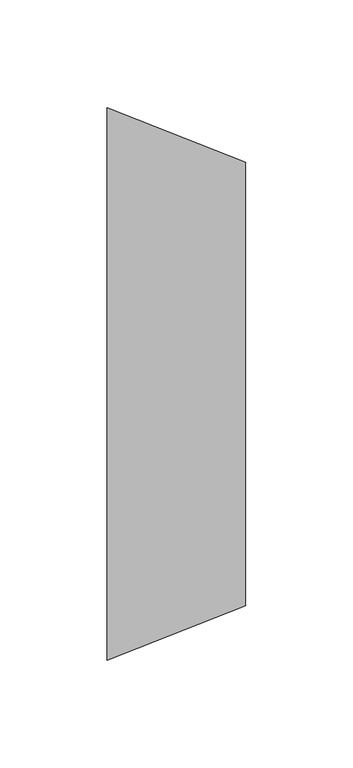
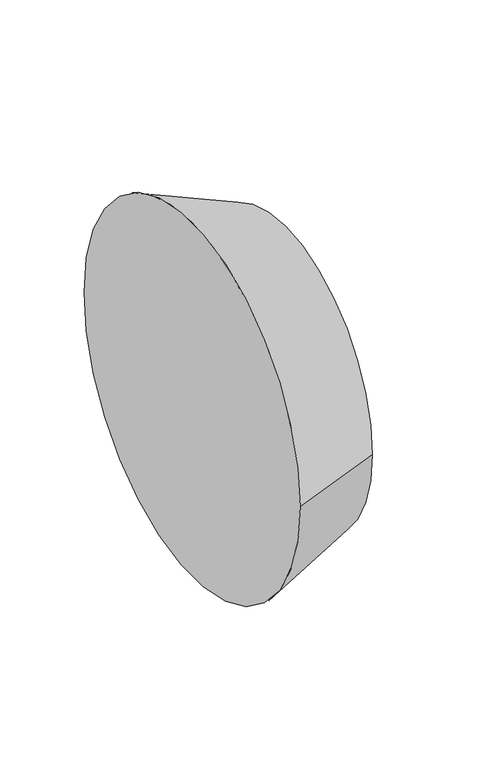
"""IFC4 building model written with IfcOpenShell, lengths in millimetres: pipe fitting geometry, M_Transición - Genérica : Estándar."""

from ifc_helpers import new_model, si_unit, frame, origin, place, context, project, spatial, polyline, circle_curve, source, transform, mapped, element, save
from ifc_brep_helpers import plane_surface, revolved_surface, advanced_brep


def pipe_fitting_4bdfcd00(model_context):
    return source(origin(), model_context, "Body", "AdvancedBrep", [
        advanced_brep(
        [(64.29375, 103.1875, 0.0), (64.29375, -103.1875, 0.0), (0.0, 128.5875, 0.0), (0.0, -128.5875, 0.0)],
        [
            (0, 1, circle_curve(frame((64.29375, 0.0, 0.0), z_axis=(1.0, 0.0, 0.0), x_axis=(0.0, -1.0, 0.0)), 103.1875)),
            (1, 0, circle_curve(frame((64.29375, 0.0, 0.0), z_axis=(1.0, 0.0, 0.0), x_axis=(0.0, 1.0, 0.0)), 103.1875)),
            (2, 3, circle_curve(frame((0.0, 0.0, 0.0), z_axis=(-1.0, 0.0, 0.0), x_axis=(0.0, 1.0, 0.0)), 128.5875)),
            (3, 2, circle_curve(frame((0.0, 0.0, 0.0), z_axis=(-1.0, 0.0, 0.0), x_axis=(0.0, -1.0, 0.0)), 128.5875)),
            (2, 0),
            (1, 3),
        ],
        [
            plane_surface(frame((64.29375, 0.0, 0.0), z_axis=(1.0, 0.0, 0.0), x_axis=(0.0, 0.0, -1.0))),
            plane_surface(frame((0.0, 0.0, 0.0), z_axis=(-1.0, 0.0, 0.0), x_axis=(0.0, 0.0, -1.0))),
            revolved_surface(polyline([(64.29374999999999, 103.18750000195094, 0.0), (0.0, 128.5875, 0.0)]), (325.4871094, 0.0, 0.0), (-1.0, 0.0, 0.0)),
            revolved_surface(polyline([(64.29374999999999, -103.18750000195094, 0.0), (0.0, -128.5875, 0.0)]), (325.4871094, 0.0, 0.0), (-1.0, 0.0, 0.0)),
        ],
        [
            (0, [[1, 2]]),
            (1, [[3, 4]]),
            (2, [[5, -2, 6, -3]]),
            (3, [[-6, -1, -5, -4]]),
        ],
    ),
    ])


if __name__ == "__main__":
    model = new_model("IFC4")
    model_context = context("Model", 3, world=origin())
    ifc_project = project(units=[si_unit("LENGTHUNIT", "METRE", prefix="MILLI")], contexts=[model_context])
    site = spatial("IfcSite", under=ifc_project)
    building = spatial("IfcBuilding", under=site)
    placement = place(None, origin())
    pipe_fitting_shape = pipe_fitting_4bdfcd00(model_context)
    element("IfcPipeFitting", 1, ObjectType="M_Transición - Genérica : Estándar", at=placement, inside=building, context=model_context, shape_type="MappedRepresentation", body=[
        mapped(pipe_fitting_shape, transform((0.0, 0.0, 0.0), x_axis=(1.0, 0.0, 0.0), y_axis=(0.0, 1.0, 0.0), z_axis=(0.0, 0.0, 1.0))),
    ])
    save(model, "model.ifc")
